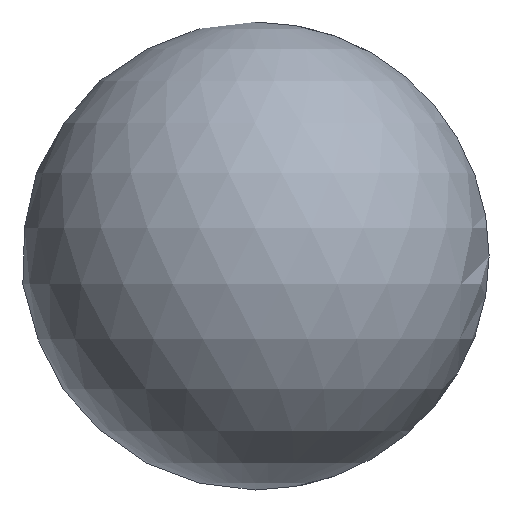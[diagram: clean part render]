
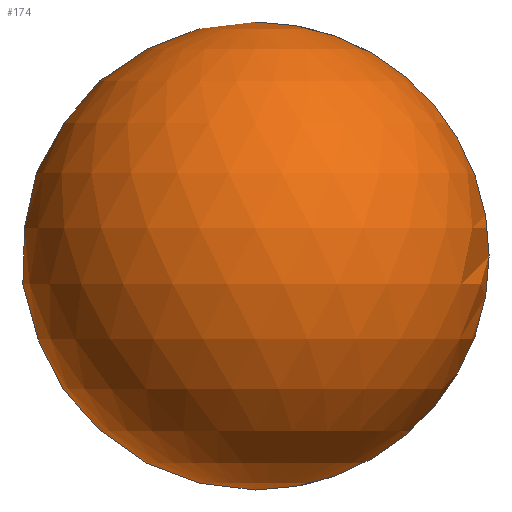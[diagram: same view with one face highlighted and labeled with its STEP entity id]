
A CAD part, front view. The second image highlights one B-rep face of the part: STEP entity #174.
In plain terms, the highlighted spherical face has radius 30 mm.
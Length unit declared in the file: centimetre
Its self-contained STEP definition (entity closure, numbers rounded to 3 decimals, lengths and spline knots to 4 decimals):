
#16=FACE_BOUND('',#52,.T.);
#20=SPHERICAL_SURFACE('',#219,3.);
#40=FACE_OUTER_BOUND('',#51,.T.);
#51=EDGE_LOOP('',(#148,#149));
#52=EDGE_LOOP('',(#150));
#82=CIRCLE('',#218,2.5981);
#83=CIRCLE('',#220,3.);
#96=VERTEX_POINT('',#316);
#97=VERTEX_POINT('',#320);
#98=VERTEX_POINT('',#321);
#115=EDGE_CURVE('',#96,#96,#82,.T.);
#117=EDGE_CURVE('',#97,#98,#83,.T.);
#148=ORIENTED_EDGE('',*,*,#117,.T.);
#149=ORIENTED_EDGE('',*,*,#117,.F.);
#150=ORIENTED_EDGE('',*,*,#115,.T.);
#174=ADVANCED_FACE('',(#40,#16),#20,.T.);
#218=AXIS2_PLACEMENT_3D('',#317,#263,#264);
#219=AXIS2_PLACEMENT_3D('',#319,#266,#267);
#220=AXIS2_PLACEMENT_3D('',#322,#268,#269);
#263=DIRECTION('center_axis',(0.,-1.,0.));
#264=DIRECTION('ref_axis',(-1.,0.,0.));
#266=DIRECTION('center_axis',(0.,0.,1.));
#267=DIRECTION('ref_axis',(-1.,0.,0.));
#268=DIRECTION('center_axis',(0.,1.,0.));
#269=DIRECTION('ref_axis',(1.,0.,0.));
#316=CARTESIAN_POINT('',(-2.5981,-10.7,0.));
#317=CARTESIAN_POINT('Origin',(0.,-10.7,0.));
#319=CARTESIAN_POINT('Origin',(0.,-12.2,0.));
#320=CARTESIAN_POINT('',(0.,-12.2,3.));
#321=CARTESIAN_POINT('',(0.,-12.2,-3.));
#322=CARTESIAN_POINT('Origin',(0.,-12.2,0.));
